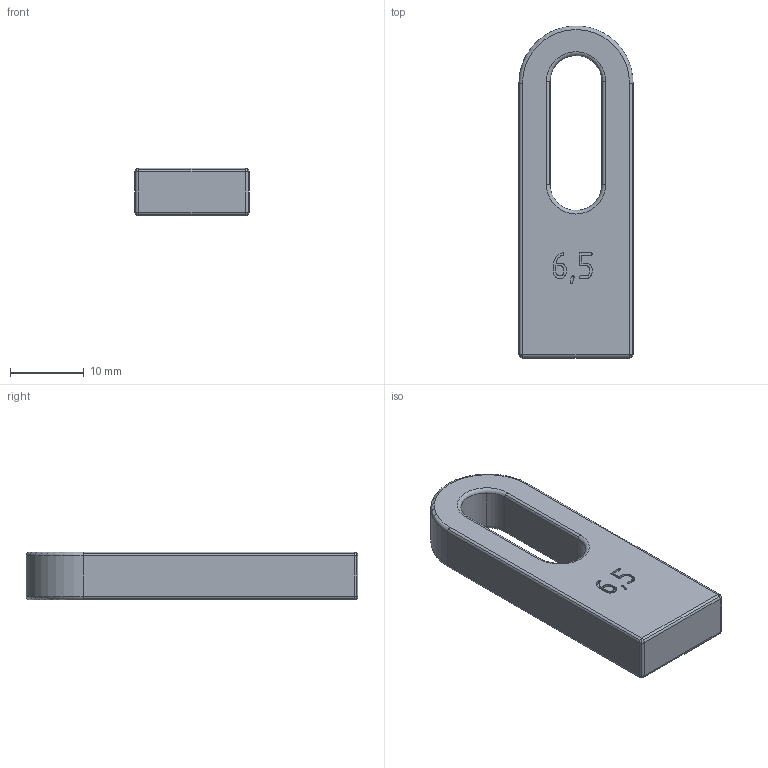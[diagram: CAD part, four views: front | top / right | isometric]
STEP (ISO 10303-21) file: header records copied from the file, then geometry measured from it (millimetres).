
FILE_DESCRIPTION(('STEP AP214'),'1');
FILE_NAME('BF-20240124-cad-shim1_65mm_light-02cbr.3.stp','2024-02-15T17:45:31',(' '),(' '),'Spatial InterOp 3D',' ',' ');
FILE_SCHEMA(('AUTOMOTIVE_DESIGN { 1 0 10303 214 1 1 1 1 }'));
Length unit declared in the file: metre
Products named in the file (1): Volumenkörper
Bounding box: 15.5 x 44.99 x 6.5 mm (x, y, z)
Volume: 2863.3 mm3; surface area: 2443.3 mm2
Topology: 1 solids, 1 shells, 293 faces, 753 edges, 464 vertices
Faces by surface type: cylinder 120, extrusion 72, plane 51, torus 42, sphere 8
Entity records: 9226 total; most frequent: CARTESIAN_POINT 2165, ORIENTED_EDGE 1490, DIRECTION 1407, EDGE_CURVE 745, AXIS2_PLACEMENT_3D 510, VERTEX_POINT 462, VECTOR 387, LINE 315
